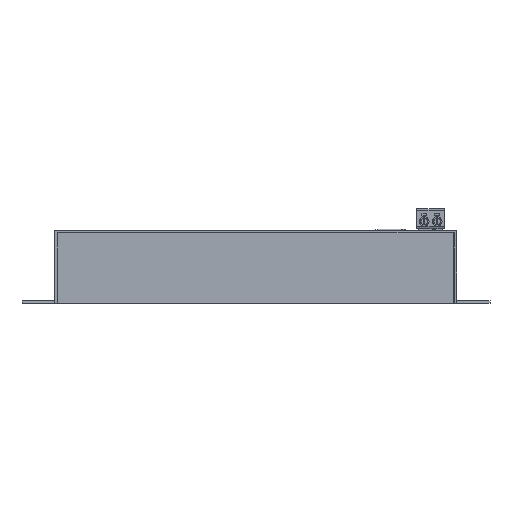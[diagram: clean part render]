
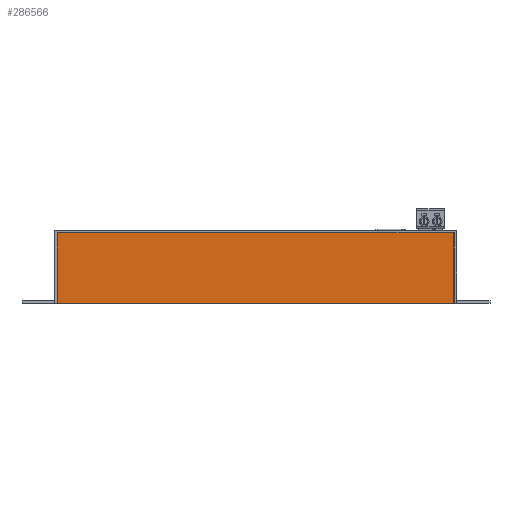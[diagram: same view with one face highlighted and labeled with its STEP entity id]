
A CAD part, front view. The second image highlights one B-rep face of the part: STEP entity #286566.
In plain terms, the highlighted planar face has unit normal (0, -1, 0).
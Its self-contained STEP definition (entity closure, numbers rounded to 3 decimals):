
#181043 = PLANE('',#181044);
#181044 = AXIS2_PLACEMENT_3D('',#181045,#181046,#181047);
#181045 = CARTESIAN_POINT('',(167.5,0.,0.));
#181046 = DIRECTION('',(1.,0.,0.));
#181047 = DIRECTION('',(0.,0.,1.));
#243436 = VERTEX_POINT('',#243437);
#243437 = CARTESIAN_POINT('',(167.5,0.,29.8));
#243458 = EDGE_CURVE('',#243459,#243436,#243461,.T.);
#243459 = VERTEX_POINT('',#243460);
#243460 = CARTESIAN_POINT('',(167.5,0.,0.));
#243461 = SURFACE_CURVE('',#243462,(#243466,#243473),.PCURVE_S1.);
#243462 = LINE('',#243463,#243464);
#243463 = CARTESIAN_POINT('',(167.5,0.,0.));
#243464 = VECTOR('',#243465,1.);
#243465 = DIRECTION('',(0.,0.,1.));
#243466 = PCURVE('',#181043,#243467);
#243467 = DEFINITIONAL_REPRESENTATION('',(#243468),#243472);
#243468 = LINE('',#243469,#243470);
#243469 = CARTESIAN_POINT('',(0.,0.));
#243470 = VECTOR('',#243471,1.);
#243471 = DIRECTION('',(1.,0.));
#243472 = ( GEOMETRIC_REPRESENTATION_CONTEXT(2) 
PARAMETRIC_REPRESENTATION_CONTEXT() REPRESENTATION_CONTEXT('2D SPACE',''
  ) );
#243473 = PCURVE('',#243474,#243479);
#243474 = PLANE('',#243475);
#243475 = AXIS2_PLACEMENT_3D('',#243476,#243477,#243478);
#243476 = CARTESIAN_POINT('',(0.,0.,0.));
#243477 = DIRECTION('',(0.,1.,0.));
#243478 = DIRECTION('',(0.,0.,1.));
#243479 = DEFINITIONAL_REPRESENTATION('',(#243480),#243484);
#243480 = LINE('',#243481,#243482);
#243481 = CARTESIAN_POINT('',(0.,167.5));
#243482 = VECTOR('',#243483,1.);
#243483 = DIRECTION('',(1.,0.));
#243484 = ( GEOMETRIC_REPRESENTATION_CONTEXT(2) 
PARAMETRIC_REPRESENTATION_CONTEXT() REPRESENTATION_CONTEXT('2D SPACE',''
  ) );
#243502 = PLANE('',#243503);
#243503 = AXIS2_PLACEMENT_3D('',#243504,#243505,#243506);
#243504 = CARTESIAN_POINT('',(0.,0.,0.));
#243505 = DIRECTION('',(0.,0.,1.));
#243506 = DIRECTION('',(1.,0.,0.));
#283666 = PLANE('',#283667);
#283667 = AXIS2_PLACEMENT_3D('',#283668,#283669,#283670);
#283668 = CARTESIAN_POINT('',(-14.9,0.,0.));
#283669 = DIRECTION('',(0.,1.,0.));
#283670 = DIRECTION('',(0.,0.,1.));
#286566 = ADVANCED_FACE('',(#286567),#243474,.F.);
#286567 = FACE_BOUND('',#286568,.F.);
#286568 = EDGE_LOOP('',(#286569,#286592,#286615,#286636));
#286569 = ORIENTED_EDGE('',*,*,#286570,.F.);
#286570 = EDGE_CURVE('',#286571,#243459,#286573,.T.);
#286571 = VERTEX_POINT('',#286572);
#286572 = CARTESIAN_POINT('',(0.,0.,0.));
#286573 = SURFACE_CURVE('',#286574,(#286578,#286585),.PCURVE_S1.);
#286574 = LINE('',#286575,#286576);
#286575 = CARTESIAN_POINT('',(0.,0.,0.));
#286576 = VECTOR('',#286577,1.);
#286577 = DIRECTION('',(1.,0.,0.));
#286578 = PCURVE('',#243474,#286579);
#286579 = DEFINITIONAL_REPRESENTATION('',(#286580),#286584);
#286580 = LINE('',#286581,#286582);
#286581 = CARTESIAN_POINT('',(0.,0.));
#286582 = VECTOR('',#286583,1.);
#286583 = DIRECTION('',(0.,1.));
#286584 = ( GEOMETRIC_REPRESENTATION_CONTEXT(2) 
PARAMETRIC_REPRESENTATION_CONTEXT() REPRESENTATION_CONTEXT('2D SPACE',''
  ) );
#286585 = PCURVE('',#243502,#286586);
#286586 = DEFINITIONAL_REPRESENTATION('',(#286587),#286591);
#286587 = LINE('',#286588,#286589);
#286588 = CARTESIAN_POINT('',(0.,0.));
#286589 = VECTOR('',#286590,1.);
#286590 = DIRECTION('',(1.,0.));
#286591 = ( GEOMETRIC_REPRESENTATION_CONTEXT(2) 
PARAMETRIC_REPRESENTATION_CONTEXT() REPRESENTATION_CONTEXT('2D SPACE',''
  ) );
#286592 = ORIENTED_EDGE('',*,*,#286593,.T.);
#286593 = EDGE_CURVE('',#286571,#286594,#286596,.T.);
#286594 = VERTEX_POINT('',#286595);
#286595 = CARTESIAN_POINT('',(0.,0.,29.8));
#286596 = SURFACE_CURVE('',#286597,(#286601,#286608),.PCURVE_S1.);
#286597 = LINE('',#286598,#286599);
#286598 = CARTESIAN_POINT('',(0.,0.,0.));
#286599 = VECTOR('',#286600,1.);
#286600 = DIRECTION('',(0.,0.,1.));
#286601 = PCURVE('',#243474,#286602);
#286602 = DEFINITIONAL_REPRESENTATION('',(#286603),#286607);
#286603 = LINE('',#286604,#286605);
#286604 = CARTESIAN_POINT('',(0.,0.));
#286605 = VECTOR('',#286606,1.);
#286606 = DIRECTION('',(1.,0.));
#286607 = ( GEOMETRIC_REPRESENTATION_CONTEXT(2) 
PARAMETRIC_REPRESENTATION_CONTEXT() REPRESENTATION_CONTEXT('2D SPACE',''
  ) );
#286608 = PCURVE('',#283666,#286609);
#286609 = DEFINITIONAL_REPRESENTATION('',(#286610),#286614);
#286610 = LINE('',#286611,#286612);
#286611 = CARTESIAN_POINT('',(0.,14.9));
#286612 = VECTOR('',#286613,1.);
#286613 = DIRECTION('',(1.,0.));
#286614 = ( GEOMETRIC_REPRESENTATION_CONTEXT(2) 
PARAMETRIC_REPRESENTATION_CONTEXT() REPRESENTATION_CONTEXT('2D SPACE',''
  ) );
#286615 = ORIENTED_EDGE('',*,*,#286616,.T.);
#286616 = EDGE_CURVE('',#286594,#243436,#286617,.T.);
#286617 = SURFACE_CURVE('',#286618,(#286622,#286629),.PCURVE_S1.);
#286618 = LINE('',#286619,#286620);
#286619 = CARTESIAN_POINT('',(0.,0.,29.8));
#286620 = VECTOR('',#286621,1.);
#286621 = DIRECTION('',(1.,0.,0.));
#286622 = PCURVE('',#243474,#286623);
#286623 = DEFINITIONAL_REPRESENTATION('',(#286624),#286628);
#286624 = LINE('',#286625,#286626);
#286625 = CARTESIAN_POINT('',(29.8,0.));
#286626 = VECTOR('',#286627,1.);
#286627 = DIRECTION('',(0.,1.));
#286628 = ( GEOMETRIC_REPRESENTATION_CONTEXT(2) 
PARAMETRIC_REPRESENTATION_CONTEXT() REPRESENTATION_CONTEXT('2D SPACE',''
  ) );
#286629 = PCURVE('',#283666,#286630);
#286630 = DEFINITIONAL_REPRESENTATION('',(#286631),#286635);
#286631 = LINE('',#286632,#286633);
#286632 = CARTESIAN_POINT('',(29.8,14.9));
#286633 = VECTOR('',#286634,1.);
#286634 = DIRECTION('',(0.,1.));
#286635 = ( GEOMETRIC_REPRESENTATION_CONTEXT(2) 
PARAMETRIC_REPRESENTATION_CONTEXT() REPRESENTATION_CONTEXT('2D SPACE',''
  ) );
#286636 = ORIENTED_EDGE('',*,*,#243458,.F.);
